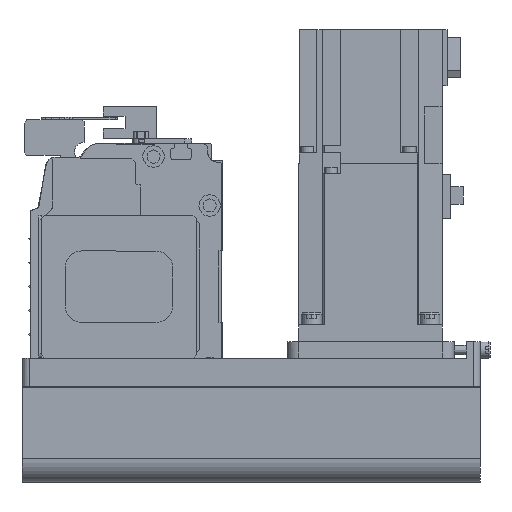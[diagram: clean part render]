
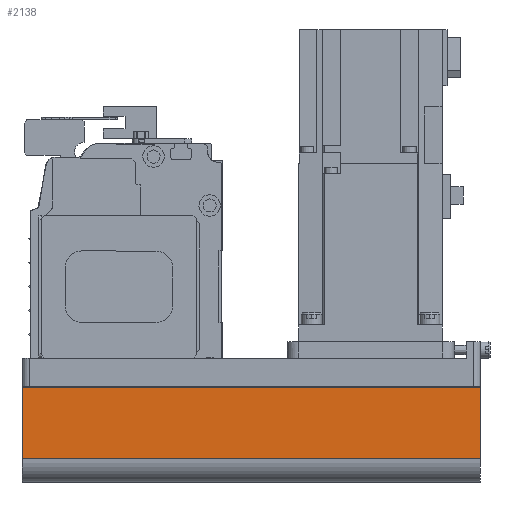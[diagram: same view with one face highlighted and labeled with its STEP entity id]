
A CAD part, left-side view. The second image highlights one B-rep face of the part: STEP entity #2138.
In plain terms, the highlighted planar face has unit normal (-1, 0, 0) as drawn and (0, 1, 0) by its records, which use the part's own axes.
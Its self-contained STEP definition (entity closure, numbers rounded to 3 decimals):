
#2138 = ADVANCED_FACE( '', ( #4515 ), #4516, .T. );
#4515 = FACE_OUTER_BOUND( '', #7051, .T. );
#4516 = PLANE( '', #7052 );
#7051 = EDGE_LOOP( '', ( #12861, #12862, #12863, #12864 ) );
#7052 = AXIS2_PLACEMENT_3D( '', #12865, #12866, #12867 );
#12861 = ORIENTED_EDGE( '', *, *, #15551, .F. );
#12862 = ORIENTED_EDGE( '', *, *, #15984, .F. );
#12863 = ORIENTED_EDGE( '', *, *, #16096, .T. );
#12864 = ORIENTED_EDGE( '', *, *, #16380, .T. );
#12865 = CARTESIAN_POINT( '', ( -192., 40., -42. ) );
#12866 = DIRECTION( '', ( 0., 1., 0. ) );
#12867 = DIRECTION( '', ( 0., 0., 1. ) );
#15551 = EDGE_CURVE( '', #19017, #19018, #19019, .T. );
#15984 = EDGE_CURVE( '', #19633, #19017, #19635, .T. );
#16096 = EDGE_CURVE( '', #19633, #19396, #19776, .T. );
#16380 = EDGE_CURVE( '', #19396, #19018, #20120, .T. );
#19017 = VERTEX_POINT( '', #23545 );
#19018 = VERTEX_POINT( '', #23546 );
#19019 = LINE( '', #23547, #23548 );
#19396 = VERTEX_POINT( '', #24057 );
#19633 = VERTEX_POINT( '', #24391 );
#19635 = LINE( '', #24393, #24394 );
#19776 = LINE( '', #24578, #24579 );
#20120 = LINE( '', #25036, #25037 );
#23545 = CARTESIAN_POINT( '', ( 0., 40., -42. ) );
#23546 = CARTESIAN_POINT( '', ( 0., 40., -12.1 ) );
#23547 = CARTESIAN_POINT( '', ( 0., 40., -42. ) );
#23548 = VECTOR( '', #27278, 1000. );
#24057 = CARTESIAN_POINT( '', ( -192., 40., -12.1 ) );
#24391 = CARTESIAN_POINT( '', ( -192., 40., -42. ) );
#24393 = CARTESIAN_POINT( '', ( -192., 40., -42. ) );
#24394 = VECTOR( '', #27799, 1000. );
#24578 = CARTESIAN_POINT( '', ( -192., 40., -42. ) );
#24579 = VECTOR( '', #27924, 1000. );
#25036 = CARTESIAN_POINT( '', ( -192., 40., -12.1 ) );
#25037 = VECTOR( '', #28185, 1000. );
#27278 = DIRECTION( '', ( 0., 0., 1. ) );
#27799 = DIRECTION( '', ( 1., 0., 0. ) );
#27924 = DIRECTION( '', ( 0., 0., 1. ) );
#28185 = DIRECTION( '', ( 1., 0., 0. ) );
